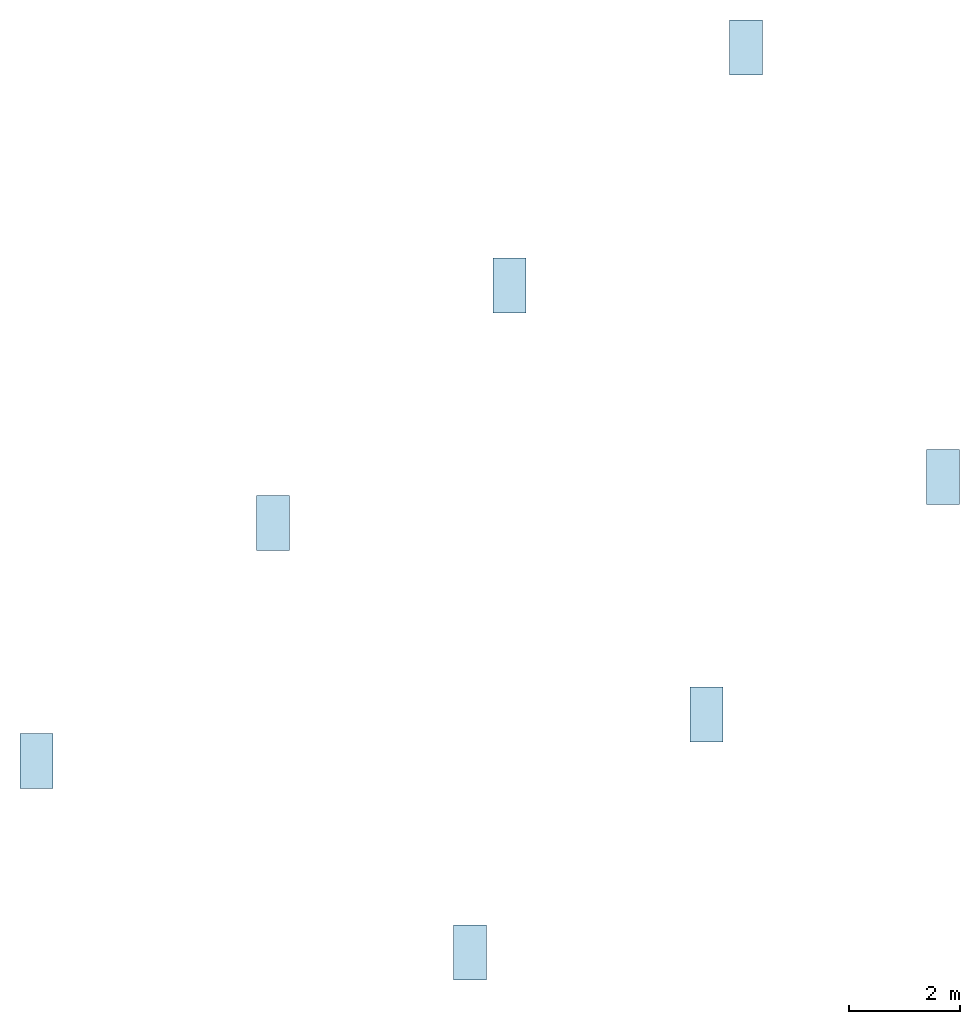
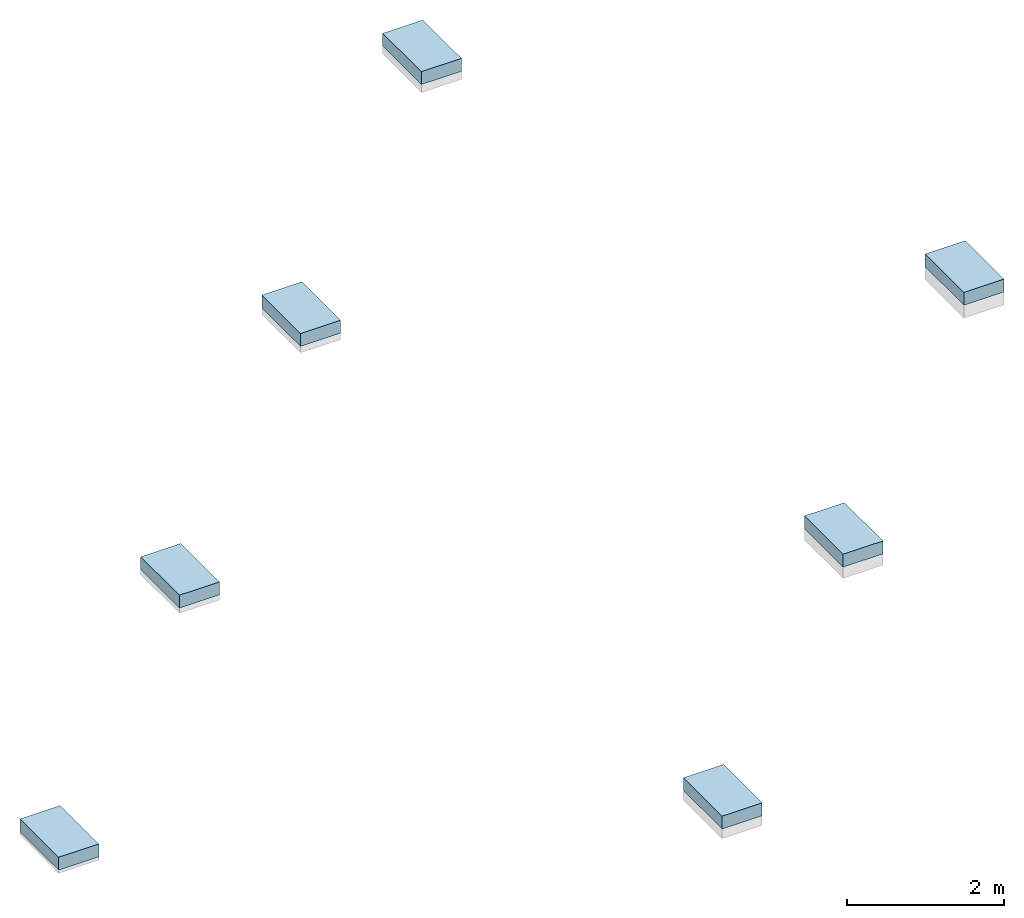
# One storey, part 1 of 2: 7 slabs.
"""IFC2X3 building model written with IfcOpenShell, lengths in millimetres."""

import ifcopenshell
import ifcopenshell.guid

model = None  # the IFC model being written
_history = None  # IfcOwnerHistory: only IFC2X3 demands one
_inside = {}  # id of a spatial element -> (the spatial element, [elements in it])
_under = {}  # id of a project, library or spatial element -> (it, [spatial elements below it])
_declared = {}  # id of a project -> (the project, [libraries it declares])
_typed = {}  # id of a type object -> (the type object, [elements of that type])
_made_of = {}  # id of a material, layer set ... -> (it, [elements and type objects made of it])


def new_model(schema):
    """Start an empty IFC model of exactly this schema.

    Asked for "IFC4X3", IfcOpenShell would pick the latest addendum, in which some entities
    have other attributes; the version numbers below select the first issue.
    IFC2X3 requires an IfcOwnerHistory on every rooted entity: one is made here for all.
    """
    global model, _history
    if schema == "IFC4X3":
        model = ifcopenshell.file(schema_version=(4, 3, 0, 0))
    else:
        model = ifcopenshell.file(schema=schema)
    _inside.clear()
    _under.clear()
    _declared.clear()
    _typed.clear()
    _made_of.clear()
    _history = None
    if model.schema == "IFC2X3":
        org = make("IfcOrganization", Name="unknown")
        user = make(
            "IfcPersonAndOrganization",
            ThePerson=make("IfcPerson", FamilyName="unknown"),
            TheOrganization=org,
        )
        app = make(
            "IfcApplication",
            ApplicationDeveloper=org,
            Version="unknown",
            ApplicationFullName="unknown",
            ApplicationIdentifier="unknown",
        )
        _history = make(
            "IfcOwnerHistory",
            OwningUser=user,
            OwningApplication=app,
            ChangeAction="ADDED",
            CreationDate=0,
        )
    return model


def make(cls, **values):
    """One entity of the class cls with the attributes given. An attribute that is None is left unset."""
    return model.create_entity(
        cls, **{name: value for name, value in values.items() if value is not None}
    )


def entity(cls, *values):
    """Any entity or typed value of the class cls, its attributes in the order of the schema. None: left unset."""
    e = model.create_entity(cls)
    for i, value in enumerate(values):
        if value is not None:
            e[i] = value
    return e


def rooted(cls, **values):
    """An entity with a GlobalId (a new one), such as an element, a storey or a relation."""
    return make(cls, GlobalId=ifcopenshell.guid.new(), OwnerHistory=_history, **values)


def si_unit(unit_type, name, prefix=None):
    """IfcSIUnit, for example si_unit("LENGTHUNIT", "METRE", prefix="MILLI")."""
    return make("IfcSIUnit", UnitType=unit_type, Prefix=prefix, Name=name)


def converted_unit(unit_type, name, factor, base, dimensions=None, offset=None):
    """IfcConversionBasedUnit, such as the inch: factor (a typed value) times the base unit."""
    return make(
        "IfcConversionBasedUnit"
        if offset is None
        else "IfcConversionBasedUnitWithOffset",
        ConversionOffset=offset,
        Dimensions=None
        if dimensions is None
        else entity("IfcDimensionalExponents", *dimensions),
        UnitType=unit_type,
        Name=name,
        ConversionFactor=make(
            "IfcMeasureWithUnit", ValueComponent=factor, UnitComponent=base
        ),
    )


def derived_unit(unit_type, elements):
    """IfcDerivedUnit: a product of units, each with its exponent."""
    return make(
        "IfcDerivedUnit",
        Elements=[
            make("IfcDerivedUnitElement", Unit=unit, Exponent=power)
            for unit, power in elements
        ],
        UnitType=unit_type,
    )


def assignment(units):
    """IfcUnitAssignment: the units of a project."""
    return None if units is None else make("IfcUnitAssignment", Units=units)


def point(xyz):
    """IfcCartesianPoint."""
    return None if xyz is None else make("IfcCartesianPoint", Coordinates=xyz)


def direction(xyz):
    """IfcDirection."""
    return None if xyz is None else make("IfcDirection", DirectionRatios=xyz)


def frame(location, z_axis=None, x_axis=None):
    """IfcAxis2Placement3D, a coordinate frame: its origin and axes. An axis left out is left unset."""
    return make(
        "IfcAxis2Placement3D",
        Location=point(location),
        Axis=direction(z_axis),
        RefDirection=direction(x_axis),
    )


def frame_2d(location, x_axis=None):
    """IfcAxis2Placement2D, a coordinate frame in the plane: its origin and x axis."""
    return make(
        "IfcAxis2Placement2D", Location=point(location), RefDirection=direction(x_axis)
    )


def origin():
    """The frame at (0, 0, 0) with its axes left unset."""
    return frame((0.0, 0.0, 0.0))


def origin_2d_with_axis():
    """The frame at (0, 0) in the plane with the x axis (1, 0) written out."""
    return frame_2d((0.0, 0.0), x_axis=(1.0, 0.0))


def place(relative_to, where):
    """IfcLocalPlacement: puts the frame where relative to a parent placement (None: the world)."""
    return make(
        "IfcLocalPlacement", PlacementRelTo=relative_to, RelativePlacement=where
    )


def context(
    kind, dimensions, precision=None, world=None, true_north=None, identifier=None
):
    """IfcGeometricRepresentationContext, for example the 3D "Model" context."""
    return make(
        "IfcGeometricRepresentationContext",
        ContextIdentifier=identifier,
        ContextType=kind,
        CoordinateSpaceDimension=dimensions,
        Precision=precision,
        WorldCoordinateSystem=world,
        TrueNorth=true_north,
    )


def subcontext(parent, identifier, kind, view, scale=None):
    """IfcGeometricRepresentationSubContext, for example "Body" below "Model"."""
    return make(
        "IfcGeometricRepresentationSubContext",
        ContextIdentifier=identifier,
        ContextType=kind,
        ParentContext=parent,
        TargetScale=scale,
        TargetView=view,
    )


def project(units=None, contexts=None):
    """IfcProject with its units and contexts."""
    return rooted(
        "IfcProject",
        Name="project",
        RepresentationContexts=contexts,
        UnitsInContext=assignment(units),
    )


def spatial(cls, under=None, at=None, **own):
    """A site, building, storey or space (cls), placed at a placement, below another one or the project."""
    s = rooted(cls, ObjectPlacement=at, **own)
    if under is not None:
        _under.setdefault(under.id(), (under, []))[1].append(s)
    return s


def profile(cls, at=None, kind="AREA", **sizes):
    """A parametric profile (cls). Its sizes go by their IFC names, for example OverallWidth=200.0."""
    return make(cls, ProfileType=kind, Position=at, **sizes)


def rectangle(**sizes):
    """IfcRectangleProfileDef."""
    return profile("IfcRectangleProfileDef", **sizes)


def extrude(swept, where, along, depth):
    """IfcExtrudedAreaSolid: the profile swept, set in the frame where, extruded along a direction by depth."""
    return make(
        "IfcExtrudedAreaSolid",
        SweptArea=swept,
        Position=where,
        ExtrudedDirection=direction(along),
        Depth=depth,
    )


def shape(context_of_items, identifier, shape_type, items):
    """IfcShapeRepresentation: the items that make up one representation, for example the "Body"."""
    return make(
        "IfcShapeRepresentation",
        ContextOfItems=context_of_items,
        RepresentationIdentifier=identifier,
        RepresentationType=shape_type,
        Items=items,
    )


def material(Name=None, Category=None):
    """IfcMaterial."""
    return make("IfcMaterial", Name=Name, Category=Category)


def layer(
    of_material, thickness, ventilated=None, Name=None, Category=None, Priority=None
):
    """IfcMaterialLayer: one layer of a wall or slab, of a material (None: an air gap)."""
    return make(
        "IfcMaterialLayer",
        Material=of_material,
        LayerThickness=thickness,
        IsVentilated=ventilated,
        Name=Name,
        Category=Category,
        Priority=Priority,
    )


def layer_set(layers, Name=None):
    """IfcMaterialLayerSet."""
    return make("IfcMaterialLayerSet", MaterialLayers=layers, LayerSetName=Name)


def layer_usage(for_layer_set, set_direction, sense, offset, extent=None):
    """IfcMaterialLayerSetUsage: how a layer set lies in its element."""
    return make(
        "IfcMaterialLayerSetUsage",
        ForLayerSet=for_layer_set,
        LayerSetDirection=set_direction,
        DirectionSense=sense,
        OffsetFromReferenceLine=offset,
        ReferenceExtent=extent,
    )


def made_of(thing, what):
    """Note that an element or type object is made of a material, layer set ...; save() writes the relation."""
    if what is not None:
        _made_of.setdefault(what.id(), (what, []))[1].append(thing)
    return thing


def type_object(cls, material=None, **own):
    """A type object (cls), such as IfcWallType, which elements share."""
    return made_of(rooted(cls, **own), material)


def element(
    cls,
    number,
    at=None,
    inside=None,
    cuts=None,
    type_object=None,
    material=None,
    context=None,
    identifier="Body",
    shape_type=None,
    held_by="IfcProductDefinitionShape",
    body=None,
    shapes=None,
    **own,
):
    """One element of the class cls, such as IfcWall. Its Tag is "e" and its number.

    at: its placement. inside: the storey or other place that contains it. cuts: it is an
    opening in that element (IfcRelVoidsElement). A single representation is given by context,
    identifier, shape_type and body (its items); several are given by shapes. held_by: the class
    of the entity that holds the representations. save() writes the other relations.
    """
    e = rooted(cls, Tag="e%d" % number, ObjectPlacement=at, **own)
    if body is not None:
        shapes = [shape(context, identifier, shape_type, body)]
    if shapes is not None:
        e.Representation = make(held_by, Representations=shapes)
    if inside is not None:
        _inside.setdefault(inside.id(), (inside, []))[1].append(e)
    if cuts is not None:
        rooted(
            "IfcRelVoidsElement", RelatingBuildingElement=cuts, RelatedOpeningElement=e
        )
    if type_object is not None:
        _typed.setdefault(type_object.id(), (type_object, []))[1].append(e)
    return made_of(e, material)


def aggregate(whole, parts):
    """IfcRelAggregates: a whole, such as a stair, and the parts it consists of."""
    return rooted("IfcRelAggregates", RelatingObject=whole, RelatedObjects=parts)


def save(model, path):
    """Write the relations noted so far, then the file.

    IfcRelAggregates (storeys below a building ...), IfcRelContainedInSpatialStructure (elements
    in a storey), IfcRelDefinesByType, IfcRelAssociatesMaterial and IfcRelDeclares: one each for
    every whole, place, type object, material and project.
    """
    for whole, parts in _under.values():
        aggregate(whole, parts)
    for where, things in _inside.values():
        rooted(
            "IfcRelContainedInSpatialStructure",
            RelatedElements=things,
            RelatingStructure=where,
        )
    for kind, things in _typed.values():
        rooted("IfcRelDefinesByType", RelatedObjects=things, RelatingType=kind)
    for what, things in _made_of.values():
        rooted("IfcRelAssociatesMaterial", RelatedObjects=things, RelatingMaterial=what)
    for by, libraries in _declared.values():
        rooted("IfcRelDeclares", RelatingContext=by, RelatedDefinitions=libraries)
    model.write(path)


model = new_model("IFC2X3")

# Units and contexts
model_context = context("Model", 3, precision=0.01, world=origin(), true_north=direction((6.12303176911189e-17, 1.0)))
context_of_model = context(None, 3, precision=0.01, world=origin(), true_north=direction((6.12303176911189e-17, 1.0)))
body_context = subcontext(model_context, "Body", "Model", "MODEL_VIEW")
ifc_project = project(units=[si_unit("LENGTHUNIT", "METRE", prefix="MILLI"), si_unit("AREAUNIT", "SQUARE_METRE"), si_unit("VOLUMEUNIT", "CUBIC_METRE"), converted_unit("PLANEANGLEUNIT", "DEGREE", entity("IfcRatioMeasure", 0.0174532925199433), si_unit("PLANEANGLEUNIT", "RADIAN"), dimensions=[0, 0, 0, 0, 0, 0, 0]), si_unit("MASSUNIT", "GRAM", prefix="KILO"), derived_unit("MASSDENSITYUNIT", [(si_unit("MASSUNIT", "GRAM", prefix="KILO"), 1), (si_unit("LENGTHUNIT", "METRE"), -3)]), derived_unit("MOMENTOFINERTIAUNIT", [(si_unit("LENGTHUNIT", "METRE"), 4)]), si_unit("TIMEUNIT", "SECOND"), si_unit("FREQUENCYUNIT", "HERTZ"), si_unit("THERMODYNAMICTEMPERATUREUNIT", "DEGREE_CELSIUS"), derived_unit("THERMALTRANSMITTANCEUNIT", [(si_unit("MASSUNIT", "GRAM", prefix="KILO"), 1), (si_unit("THERMODYNAMICTEMPERATUREUNIT", "KELVIN"), -1), (si_unit("TIMEUNIT", "SECOND"), -3)]), derived_unit("VOLUMETRICFLOWRATEUNIT", [(si_unit("LENGTHUNIT", "METRE"), 3), (si_unit("TIMEUNIT", "SECOND"), -1)]), si_unit("ELECTRICCURRENTUNIT", "AMPERE"), si_unit("ELECTRICVOLTAGEUNIT", "VOLT"), si_unit("POWERUNIT", "WATT"), si_unit("FORCEUNIT", "NEWTON", prefix="KILO"), si_unit("ILLUMINANCEUNIT", "LUX"), si_unit("LUMINOUSFLUXUNIT", "LUMEN"), si_unit("LUMINOUSINTENSITYUNIT", "CANDELA"), derived_unit("USERDEFINED", [(si_unit("MASSUNIT", "GRAM", prefix="KILO"), -1), (si_unit("LENGTHUNIT", "METRE"), -2), (si_unit("TIMEUNIT", "SECOND"), 3), (si_unit("LUMINOUSFLUXUNIT", "LUMEN"), 1)]), derived_unit("LINEARVELOCITYUNIT", [(si_unit("LENGTHUNIT", "METRE"), 1), (si_unit("TIMEUNIT", "SECOND"), -1)]), si_unit("PRESSUREUNIT", "PASCAL"), derived_unit("USERDEFINED", [(si_unit("LENGTHUNIT", "METRE"), -2), (si_unit("MASSUNIT", "GRAM", prefix="KILO"), 1), (si_unit("TIMEUNIT", "SECOND"), -2)]), derived_unit("LINEARFORCEUNIT", [(si_unit("MASSUNIT", "GRAM", prefix="KILO"), 1), (si_unit("LENGTHUNIT", "METRE"), 1), (si_unit("TIMEUNIT", "SECOND"), -2), (si_unit("LENGTHUNIT", "METRE"), -1)]), derived_unit("PLANARFORCEUNIT", [(si_unit("MASSUNIT", "GRAM", prefix="KILO"), 1), (si_unit("LENGTHUNIT", "METRE"), 1), (si_unit("TIMEUNIT", "SECOND"), -2), (si_unit("LENGTHUNIT", "METRE"), -2)])], contexts=[model_context, context_of_model])

# Site, building, storey
site_placement = place(None, origin())
site = spatial("IfcSite", under=ifc_project, at=site_placement, Name="Default", CompositionType="ELEMENT")
building_placement = place(site_placement, origin())
building = spatial("IfcBuilding", under=site, at=building_placement, CompositionType="ELEMENT")
storey_placement = place(building_placement, frame((0.0, 0.0, 985.0)))
storey = spatial("IfcBuildingStorey", under=building, at=storey_placement, Name="01 eerste verdieping", CompositionType="ELEMENT", Elevation=985.0)

# Slabs
ifc_material = material(Name="Concrete, Precast Panels")
ifc_layer = layer(ifc_material, 200.0)
ifc_layer_set = layer_set([ifc_layer], Name="Floor:Generic 200mm")
ifc_layer_usage_1 = layer_usage(ifc_layer_set, "AXIS3", "POSITIVE", 0.0)
slab_type_1 = type_object("IfcSlabType", Name="Floor:Generic 200mm", PredefinedType="FLOOR", material=ifc_layer_set)
slab_1_placement = place(storey_placement, origin())
element("IfcSlab", 1, at=slab_1_placement, inside=storey, type_object=slab_type_1, material=ifc_layer_usage_1, Name="Floor:Generic 200mm", ObjectType="Floor:Generic 200mm", PredefinedType="FLOOR", context=body_context, shape_type="SweptSolid", body=[
    extrude(rectangle(XDim=985.0, YDim=590.0, at=origin_2d_with_axis()), frame((295.0, 2027.49999999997, 200.0), z_axis=(0.0, 0.0, -1.0), x_axis=(0.0, 1.0, 0.0)), (0.0, 0.0, 1.0), 200.0),
])
ifc_layer_usage_2 = layer_usage(ifc_layer_set, "AXIS3", "POSITIVE", 0.0)
slab_type_2 = type_object("IfcSlabType", Name="Floor:Generic 200mm", PredefinedType="FLOOR", material=ifc_layer_set)
slab_2_placement = place(storey_placement, origin())
element("IfcSlab", 2, at=slab_2_placement, inside=storey, type_object=slab_type_2, material=ifc_layer_usage_2, Name="Floor:Generic 200mm", ObjectType="Floor:Generic 200mm", PredefinedType="FLOOR", context=body_context, shape_type="SweptSolid", body=[
    extrude(rectangle(XDim=984.999999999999, YDim=590.0, at=origin_2d_with_axis()), frame((4537.64068711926, 6300.14068711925, 200.0), z_axis=(0.0, 0.0, -1.0), x_axis=(0.0, 1.0, 0.0)), (0.0, 0.0, 1.0), 200.0),
])
ifc_layer_usage_3 = layer_usage(ifc_layer_set, "AXIS3", "POSITIVE", 0.0)
slab_type_3 = type_object("IfcSlabType", Name="Floor:Generic 200mm", PredefinedType="FLOOR", material=ifc_layer_set)
slab_3_placement = place(storey_placement, origin())
element("IfcSlab", 3, at=slab_3_placement, inside=storey, type_object=slab_type_3, material=ifc_layer_usage_3, Name="Floor:Generic 200mm", ObjectType="Floor:Generic 200mm", PredefinedType="FLOOR", context=body_context, shape_type="SweptSolid", body=[
    extrude(rectangle(XDim=984.999999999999, YDim=590.0, at=frame_2d((-1.10844666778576e-12, 0.0), x_axis=(1.0, 0.0))), frame((8780.28137423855, 10562.7813742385, 200.0), z_axis=(0.0, 0.0, -1.0), x_axis=(0.0, 1.0, 0.0)), (0.0, 0.0, 1.0), 200.0),
])
ifc_layer_usage_4 = layer_usage(ifc_layer_set, "AXIS3", "POSITIVE", 0.0)
slab_type_4 = type_object("IfcSlabType", Name="Floor:Generic 200mm", PredefinedType="FLOOR", material=ifc_layer_set)
slab_4_placement = place(storey_placement, origin())
element("IfcSlab", 4, at=slab_4_placement, inside=storey, type_object=slab_type_4, material=ifc_layer_usage_4, Name="Floor:Generic 200mm", ObjectType="Floor:Generic 200mm", PredefinedType="FLOOR", context=body_context, shape_type="SweptSolid", body=[
    extrude(rectangle(XDim=984.999999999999, YDim=590.0, at=frame_2d((-1.10844666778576e-12, 0.0), x_axis=(1.0, 0.0))), frame((13022.9220613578, 14830.4220613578, 200.0), z_axis=(0.0, 0.0, -1.0), x_axis=(0.0, 1.0, 0.0)), (0.0, 0.0, 1.0), 200.0),
])
ifc_layer_usage_5 = layer_usage(ifc_layer_set, "AXIS3", "POSITIVE", 0.0)
slab_type_5 = type_object("IfcSlabType", Name="Floor:Generic 200mm", PredefinedType="FLOOR", material=ifc_layer_set)
slab_5_placement = place(storey_placement, origin())
element("IfcSlab", 5, at=slab_5_placement, inside=storey, type_object=slab_type_5, material=ifc_layer_usage_5, Name="Floor:Generic 200mm", ObjectType="Floor:Generic 200mm", PredefinedType="FLOOR", context=body_context, shape_type="SweptSolid", body=[
    extrude(rectangle(XDim=984.999999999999, YDim=589.999999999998, at=frame_2d((0.0, -1.08002495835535e-12), x_axis=(1.0, 0.0))), frame((16558.4559672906, 7127.24746830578, 200.0), z_axis=(0.0, 0.0, -1.0), x_axis=(0.0, 1.0, 0.0)), (0.0, 0.0, 1.0), 200.0),
])
ifc_layer_usage_6 = layer_usage(ifc_layer_set, "AXIS3", "POSITIVE", 0.0)
slab_type_6 = type_object("IfcSlabType", Name="Floor:Generic 200mm", PredefinedType="FLOOR", material=ifc_layer_set)
slab_6_placement = place(storey_placement, origin())
element("IfcSlab", 6, at=slab_6_placement, inside=storey, type_object=slab_type_6, material=ifc_layer_usage_6, Name="Floor:Generic 200mm", ObjectType="Floor:Generic 200mm", PredefinedType="FLOOR", context=body_context, shape_type="SweptSolid", body=[
    extrude(rectangle(XDim=985.0, YDim=589.999999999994, at=frame_2d((2.8421709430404e-13, 1.08002495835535e-12), x_axis=(1.0, 0.0))), frame((12315.8152801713, 2859.6067811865, 200.0), z_axis=(0.0, 0.0, -1.0), x_axis=(0.0, 1.0, 0.0)), (0.0, 0.0, 1.0), 200.0),
])
ifc_layer_usage_7 = layer_usage(ifc_layer_set, "AXIS3", "POSITIVE", 0.0)
slab_type_7 = type_object("IfcSlabType", Name="Floor:Generic 200mm", PredefinedType="FLOOR", material=ifc_layer_set)
slab_7_placement = place(storey_placement, origin())
element("IfcSlab", 7, at=slab_7_placement, inside=storey, type_object=slab_type_7, material=ifc_layer_usage_7, Name="Floor:Generic 200mm", ObjectType="Floor:Generic 200mm", PredefinedType="FLOOR", context=body_context, shape_type="SweptSolid", body=[
    extrude(rectangle(XDim=985.0, YDim=590.0, at=origin_2d_with_axis()), frame((8073.17459305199, -1408.03390593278, 200.0), z_axis=(0.0, 0.0, -1.0), x_axis=(0.0, 1.0, 0.0)), (0.0, 0.0, 1.0), 200.0),
])

save(model, "model.ifc")
